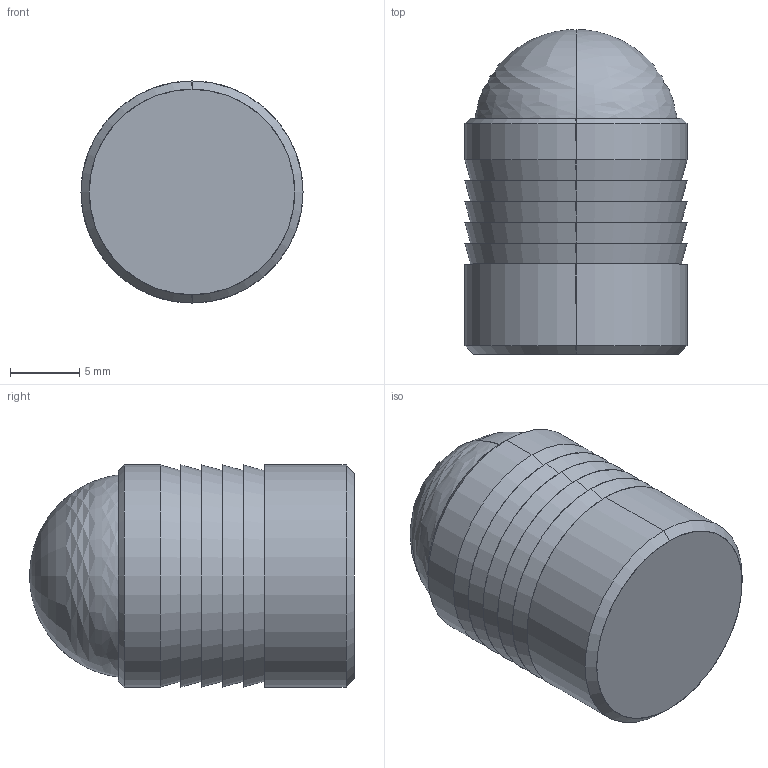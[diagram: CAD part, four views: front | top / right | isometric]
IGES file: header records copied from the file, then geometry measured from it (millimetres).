
Start section: SolidWorks IGES file using analytic representation for surfaces
Global section: file name: C:\Users\IanO\Desktop\P0190_v2\P0190_v2_20230321_IGES\P0190.160-A2-A2.igs; native system: SolidWorks 2019; preprocessor: SolidWorks 2019; author: IanO; date: 231219.161642; units: millimetre
Bounding box: 16 x 23.4 x 16 mm (x, y, z)
Surface area: 2177.1 mm2 (no closed solid volume)
Topology: 0 solids, 0 shells, 29 faces, 504 edges, 502 vertices
Faces by surface type: revolution 22, bspline 7
